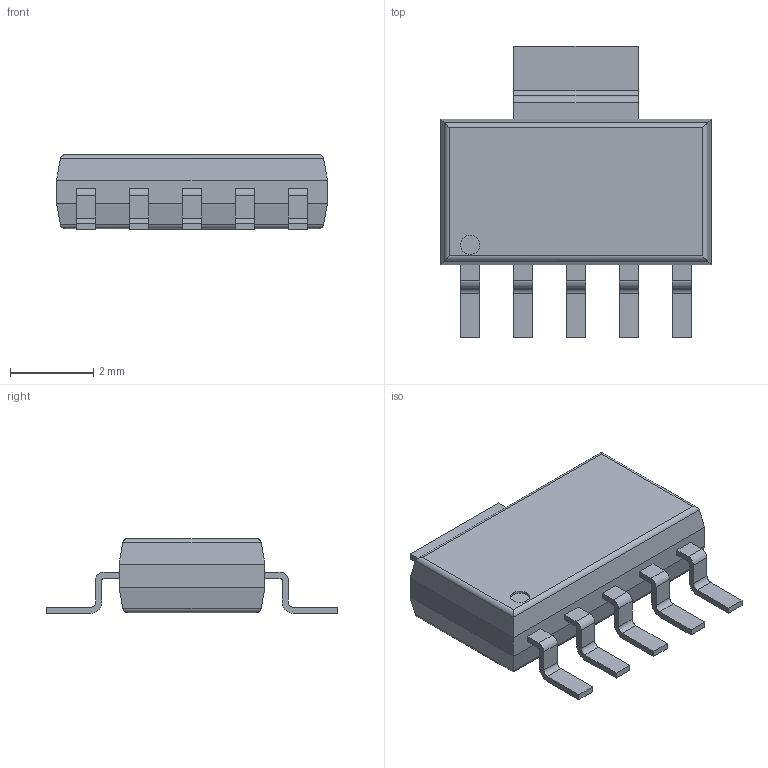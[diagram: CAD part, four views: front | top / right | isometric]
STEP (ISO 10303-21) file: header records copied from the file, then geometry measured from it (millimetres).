
FILE_DESCRIPTION (( 'STEP AP214' ), '1' );
FILE_NAME ( 'SOT223-6P127_700X180L102X46.STEP', '2021-10-06T06:48:57', ( '' ), ( '' ), '', '©2017 PCB Libraries, Inc.', '' );
FILE_SCHEMA (( 'AUTOMOTIVE_DESIGN' ));
Length unit declared in the file: millimetre
Products named in the file (1): SOT223-6P127_700X180L102X46
Bounding box: 6.5 x 7 x 1.8 mm (x, y, z)
Volume: 41 mm3; surface area: 107.5 mm2
Topology: 7 solids, 7 shells, 109 faces, 266 edges, 172 vertices
Faces by surface type: plane 75, cylinder 34
Entity records: 3333 total; most frequent: CARTESIAN_POINT 572, ORIENTED_EDGE 532, DIRECTION 530, EDGE_CURVE 266, VECTOR 206, LINE 206, VERTEX_POINT 172, AXIS2_PLACEMENT_3D 162
